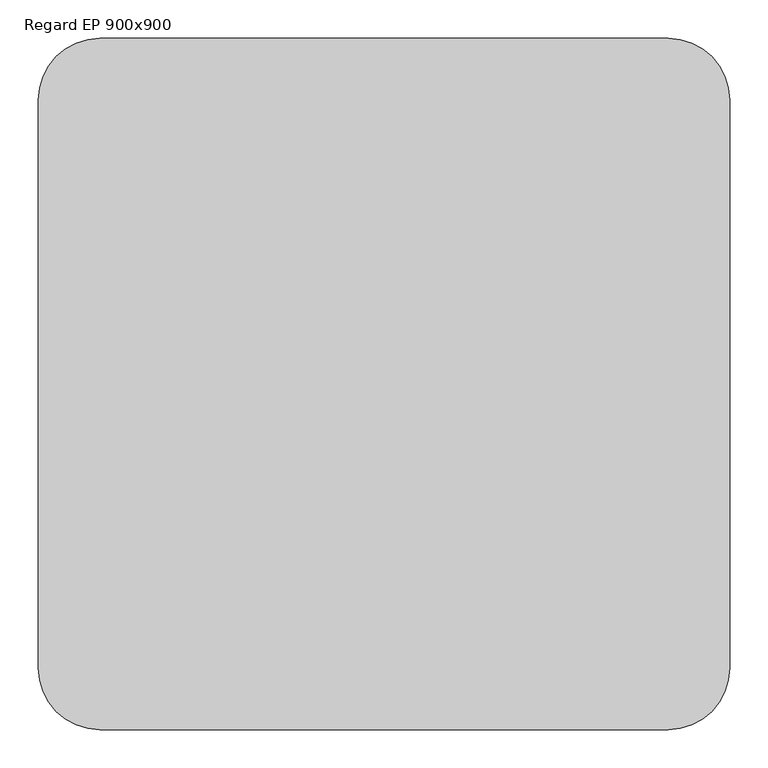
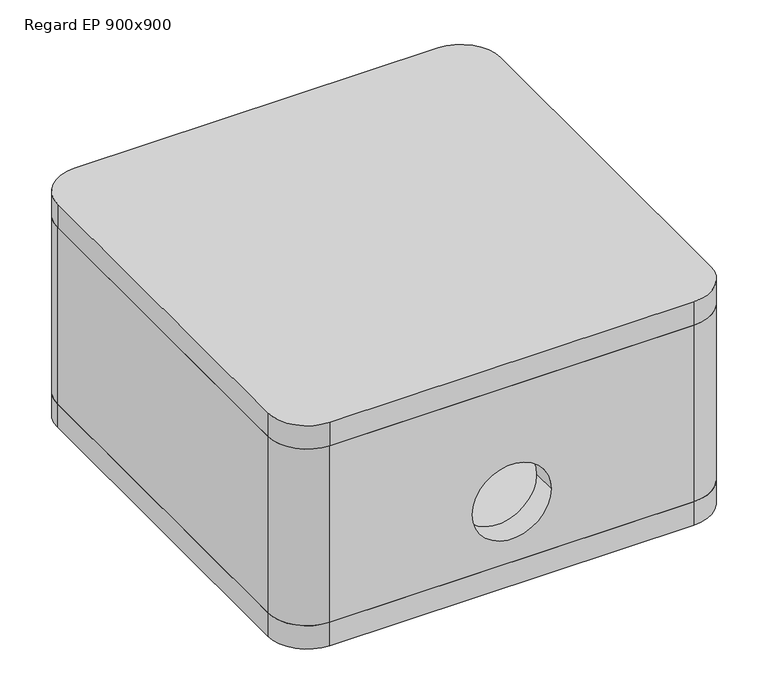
"""IFC4 building model written with IfcOpenShell, lengths in millimetres: valve geometry, Regard Eau pluviale 2 : Regard EP 900x900."""

from ifc_helpers import new_model, si_unit, point, frame, frame_2d, origin, place, context, project, spatial, polyline, circle_curve, trimmed, segment, composite_curve, outline, extrude, source, transform, mapped, element, save
from ifc_brep_helpers import plane_surface, cylinder_surface, revolved_surface, advanced_brep


def regard_ep_900x900_4cb097e6(model_context):
    return source(origin(), model_context, "Body", "SolidModel", [
        extrude(outline(composite_curve([segment(trimmed(circle_curve(frame_2d((370.0, 370.0)), 80.0), [point((370.0, 450.0))], [point((450.0, 370.0))], False, "CARTESIAN"), True, "CONTINUOUS"), segment(polyline([(450.0, 370.0), (450.0, -370.0)]), True, "CONTINUOUS"), segment(trimmed(circle_curve(frame_2d((370.0, -370.0)), 80.0), [point((450.0, -370.0))], [point((370.0, -450.0))], False, "CARTESIAN"), True, "CONTINUOUS"), segment(polyline([(370.0, -450.0), (-370.0, -450.0)]), True, "CONTINUOUS"), segment(trimmed(circle_curve(frame_2d((-370.0, -370.0)), 80.0), [point((-370.0, -450.0))], [point((-450.0, -370.0))], False, "CARTESIAN"), True, "CONTINUOUS"), segment(polyline([(-450.0, -370.0), (-450.0, 370.0)]), True, "CONTINUOUS"), segment(trimmed(circle_curve(frame_2d((-370.0, 370.0)), 80.0), [point((-450.0, 370.0))], [point((-370.0, 450.0))], False, "CARTESIAN"), True, "CONTINUOUS"), segment(polyline([(-370.0, 450.0), (370.0, 450.0)]), True, "CONTINUOUS")], self_intersect=False)), frame((0.0, 0.0, 869930.0), z_axis=(0.0, 0.0, 1.0), x_axis=(1.0, 0.0, 0.0)), (0.0, 0.0, 1.0), 50.0),
        extrude(outline(composite_curve([segment(trimmed(circle_curve(frame_2d((370.0, 370.0)), 80.0), [point((370.0, 450.0))], [point((450.0, 370.0))], False, "CARTESIAN"), True, "CONTINUOUS"), segment(polyline([(450.0, 370.0), (450.0, -370.0)]), True, "CONTINUOUS"), segment(trimmed(circle_curve(frame_2d((370.0, -370.0)), 80.0), [point((450.0, -370.0))], [point((370.0, -450.0))], False, "CARTESIAN"), True, "CONTINUOUS"), segment(polyline([(370.0, -450.0), (-370.0, -450.0)]), True, "CONTINUOUS"), segment(trimmed(circle_curve(frame_2d((-370.0, -370.0)), 80.0), [point((-370.0, -450.0))], [point((-450.0, -370.0))], False, "CARTESIAN"), True, "CONTINUOUS"), segment(polyline([(-450.0, -370.0), (-450.0, 370.0)]), True, "CONTINUOUS"), segment(trimmed(circle_curve(frame_2d((-370.0, 370.0)), 80.0), [point((-450.0, 370.0))], [point((-370.0, 450.0))], False, "CARTESIAN"), True, "CONTINUOUS"), segment(polyline([(-370.0, 450.0), (370.0, 450.0)]), True, "CONTINUOUS")], self_intersect=False)), frame((0.0, 0.0, 869500.0), z_axis=(0.0, 0.0, 1.0), x_axis=(1.0, 0.0, 0.0)), (0.0, 0.0, 1.0), 50.0),
        advanced_brep(
        [(450.0, -370.0, 869930.0), (450.0, 370.0, 869930.0), (370.0, 450.0, 869930.0), (-370.0, 450.0, 869930.0), (-450.0, 370.0, 869930.0), (-450.0, -370.0, 869930.0), (-370.0, -450.0, 869930.0), (370.0, -450.0, 869930.0), (-370.0, 400.0, 869930.0), (370.0, 400.0, 869930.0), (400.0, 370.0, 869930.0), (400.0, -370.0, 869930.0), (370.0, -400.0, 869930.0), (-370.0, -400.0, 869930.0), (-400.0, -370.0, 869930.0), (-400.0, 370.0, 869930.0), (450.0, -370.0, 869550.0), (370.0, -450.0, 869550.0), (-370.0, -450.0, 869550.0), (-450.0, -370.0, 869550.0), (-450.0, 370.0, 869550.0), (-370.0, 450.0, 869550.0), (370.0, 450.0, 869550.0), (450.0, 370.0, 869550.0), (-370.0, 400.0, 869550.0), (-400.0, 370.0, 869550.0), (-400.0, -370.0, 869550.0), (-370.0, -400.0, 869550.0), (370.0, -400.0, 869550.0), (400.0, -370.0, 869550.0), (400.0, 370.0, 869550.0), (370.0, 400.0, 869550.0), (-80.0, 450.0, 869680.0), (80.0, 450.0, 869680.0), (80.0, -450.0, 869680.0), (-80.0, -450.0, 869680.0), (-80.0, -400.0, 869680.0), (80.0, -400.0, 869680.0), (-80.0, 400.0, 869680.0), (80.0, 400.0, 869680.0)],
        [
            (0, 1),
            (1, 2, circle_curve(frame((370.0, 370.0, 869930.0), z_axis=(0.0, 0.0, 1.0), x_axis=(1.0, 0.0, 0.0)), 80.0)),
            (2, 3),
            (3, 4, circle_curve(frame((-370.0, 370.0, 869930.0), z_axis=(0.0, 0.0, 1.0), x_axis=(1.0, 0.0, 0.0)), 80.0)),
            (4, 5),
            (5, 6, circle_curve(frame((-370.0, -370.0, 869930.0), z_axis=(0.0, 0.0, 1.0), x_axis=(1.0, 0.0, 0.0)), 80.0)),
            (6, 7),
            (7, 0, circle_curve(frame((370.0, -370.0, 869930.0), z_axis=(0.0, 0.0, 1.0), x_axis=(1.0, 0.0, 0.0)), 80.0)),
            (8, 9),
            (9, 10, circle_curve(frame((370.0, 370.0, 869930.0), z_axis=(0.0, 0.0, -1.0), x_axis=(1.0, 0.0, 0.0)), 30.0)),
            (10, 11),
            (11, 12, circle_curve(frame((370.0, -370.0, 869930.0), z_axis=(0.0, 0.0, -1.0), x_axis=(1.0, 0.0, 0.0)), 30.0)),
            (12, 13),
            (13, 14, circle_curve(frame((-370.0, -370.0, 869930.0), z_axis=(0.0, 0.0, -1.0), x_axis=(1.0, 0.0, 0.0)), 30.0)),
            (14, 15),
            (15, 8, circle_curve(frame((-370.0, 370.0, 869930.0), z_axis=(0.0, 0.0, -1.0), x_axis=(1.0, 0.0, 0.0)), 30.0)),
            (16, 17, circle_curve(frame((370.0, -370.0, 869550.0), z_axis=(0.0, 0.0, -1.0), x_axis=(1.0, 0.0, 0.0)), 80.0)),
            (17, 18),
            (18, 19, circle_curve(frame((-370.0, -370.0, 869550.0), z_axis=(0.0, 0.0, -1.0), x_axis=(1.0, 0.0, 0.0)), 80.0)),
            (19, 20),
            (20, 21, circle_curve(frame((-370.0, 370.0, 869550.0), z_axis=(0.0, 0.0, -1.0), x_axis=(1.0, 0.0, 0.0)), 80.0)),
            (21, 22),
            (22, 23, circle_curve(frame((370.0, 370.0, 869550.0), z_axis=(0.0, 0.0, -1.0), x_axis=(1.0, 0.0, 0.0)), 80.0)),
            (23, 16),
            (24, 25, circle_curve(frame((-370.0, 370.0, 869550.0), z_axis=(0.0, 0.0, 1.0), x_axis=(1.0, 0.0, 0.0)), 30.0)),
            (25, 26),
            (26, 27, circle_curve(frame((-370.0, -370.0, 869550.0), z_axis=(0.0, 0.0, 1.0), x_axis=(1.0, 0.0, 0.0)), 30.0)),
            (27, 28),
            (28, 29, circle_curve(frame((370.0, -370.0, 869550.0), z_axis=(0.0, 0.0, 1.0), x_axis=(1.0, 0.0, 0.0)), 30.0)),
            (29, 30),
            (30, 31, circle_curve(frame((370.0, 370.0, 869550.0), z_axis=(0.0, 0.0, 1.0), x_axis=(1.0, 0.0, 0.0)), 30.0)),
            (31, 24),
            (0, 16),
            (23, 1),
            (2, 22),
            (21, 3),
            (32, 33, circle_curve(frame((0.0, 450.0, 869680.0), z_axis=(0.0, -1.0, 0.0), x_axis=(1.0, 0.0, 0.0)), 80.0)),
            (33, 32, circle_curve(frame((0.0, 450.0, 869680.0), z_axis=(0.0, -1.0, 0.0), x_axis=(1.0, 0.0, 0.0)), 80.0)),
            (4, 20),
            (19, 5),
            (6, 18),
            (17, 7),
            (34, 35, circle_curve(frame((0.0, -450.0, 869680.0), z_axis=(0.0, 1.0, 0.0), x_axis=(1.0, 0.0, 0.0)), 80.0)),
            (35, 34, circle_curve(frame((0.0, -450.0, 869680.0), z_axis=(0.0, 1.0, 0.0), x_axis=(1.0, 0.0, 0.0)), 80.0)),
            (36, 35),
            (34, 37),
            (37, 36, circle_curve(frame((0.0, -400.0, 869680.0), z_axis=(0.0, 1.0, 0.0), x_axis=(1.0, 0.0, 0.0)), 80.0)),
            (36, 37, circle_curve(frame((0.0, -400.0, 869680.0), z_axis=(0.0, 1.0, 0.0), x_axis=(1.0, 0.0, 0.0)), 80.0)),
            (32, 38),
            (38, 39, circle_curve(frame((0.0, 400.0, 869680.0), z_axis=(0.0, -1.0, 0.0), x_axis=(1.0, 0.0, 0.0)), 80.0)),
            (39, 33),
            (39, 38, circle_curve(frame((0.0, 400.0, 869680.0), z_axis=(0.0, -1.0, 0.0), x_axis=(1.0, 0.0, 0.0)), 80.0)),
            (8, 24),
            (31, 9),
            (30, 10),
            (29, 11),
            (28, 12),
            (27, 13),
            (26, 14),
            (25, 15),
        ],
        [
            plane_surface(frame((450.0, 370.0, 869930.0), z_axis=(0.0, 0.0, 1.0), x_axis=(0.0, 1.0, 0.0))),
            plane_surface(frame((450.0, 370.0, 869550.0), z_axis=(0.0, 0.0, -1.0), x_axis=(0.0, -1.0, 0.0))),
            plane_surface(frame((450.0, -370.0, 869930.0), z_axis=(1.0, 0.0, 0.0), x_axis=(0.0, 0.0, -1.0))),
            plane_surface(frame((370.0, 450.0, 869930.0), z_axis=(0.0, 1.0, 0.0), x_axis=(0.0, 0.0, -1.0))),
            plane_surface(frame((-450.0, 370.0, 869930.0), z_axis=(-1.0, 0.0, 0.0), x_axis=(0.0, 0.0, -1.0))),
            plane_surface(frame((-370.0, -450.0, 869930.0), z_axis=(0.0, -1.0, 0.0), x_axis=(0.0, 0.0, -1.0))),
            revolved_surface(polyline([(80.0, -450.0, 869680.0), (80.0, -400.0, 869680.0)]), (0.0, -250.0, 869680.0), (0.0, -1.0, 0.0)),
            revolved_surface(polyline([(80.0, 400.0, 869680.0), (80.0, 450.0, 869680.0)]), (0.0, 450.0, 869680.0), (0.0, -1.0, 0.0)),
            cylinder_surface(frame((370.0, 370.0, 869550.0), z_axis=(0.0, 0.0, 1.0), x_axis=(1.0, 0.0, 0.0)), 80.0),
            cylinder_surface(frame((-370.0, 370.0, 869550.0), z_axis=(0.0, 0.0, 1.0), x_axis=(1.0, 0.0, 0.0)), 80.0),
            cylinder_surface(frame((-370.0, -370.0, 869550.0), z_axis=(0.0, 0.0, 1.0), x_axis=(1.0, 0.0, 0.0)), 80.0),
            cylinder_surface(frame((370.0, -370.0, 869550.0), z_axis=(0.0, 0.0, 1.0), x_axis=(1.0, 0.0, 0.0)), 80.0),
            plane_surface(frame((-370.0, 400.0, 869930.0), z_axis=(0.0, -1.0, 0.0), x_axis=(0.0, 0.0, -1.0))),
            revolved_surface(polyline([(400.0, 370.0, 869550.0), (400.0, 370.0, 869930.0)]), (370.0, 370.0, 0.0), (0.0, 0.0, -1.0)),
            plane_surface(frame((400.0, 370.0, 869930.0), z_axis=(-1.0, 0.0, 0.0), x_axis=(0.0, 0.0, -1.0))),
            revolved_surface(polyline([(400.0, -370.0, 869550.0), (400.0, -370.0, 869930.0)]), (370.0, -370.0, 0.0), (0.0, 0.0, -1.0)),
            plane_surface(frame((370.0, -400.0, 869930.0), z_axis=(0.0, 1.0, 0.0), x_axis=(0.0, 0.0, -1.0))),
            revolved_surface(polyline([(-340.0, -370.0, 869550.0), (-340.0, -370.0, 869930.0)]), (-370.0, -370.0, 0.0), (0.0, 0.0, -1.0)),
            plane_surface(frame((-400.0, -370.0, 869930.0), z_axis=(1.0, 0.0, 0.0), x_axis=(0.0, 0.0, -1.0))),
            revolved_surface(polyline([(-340.0, 370.0, 869550.0), (-340.0, 370.0, 869930.0)]), (-370.0, 370.0, 0.0), (0.0, 0.0, -1.0)),
        ],
        [
            (0, [[1, 2, 3, 4, 5, 6, 7, 8], [9, 10, 11, 12, 13, 14, 15, 16]]),
            (1, [[17, 18, 19, 20, 21, 22, 23, 24], [25, 26, 27, 28, 29, 30, 31, 32]]),
            (2, [[-1, 33, -24, 34]]),
            (3, [[-3, 35, -22, 36], [37, 38]]),
            (4, [[-5, 39, -20, 40]]),
            (5, [[-7, 41, -18, 42], [43, 44]]),
            (6, [[45, -43, 46, 47]]),
            (6, [[-45, 48, -46, -44]]),
            (7, [[49, 50, 51, -37]]),
            (7, [[-49, -38, -51, 52]]),
            (8, [[-2, -34, -23, -35]]),
            (9, [[-4, -36, -21, -39]]),
            (10, [[-6, -40, -19, -41]]),
            (11, [[-8, -42, -17, -33]]),
            (12, [[-9, 53, -32, 54], [-50, -52]]),
            (13, [[-10, -54, -31, 55]]),
            (14, [[-11, -55, -30, 56]]),
            (15, [[-12, -56, -29, 57]]),
            (16, [[-13, -57, -28, 58], [-47, -48]]),
            (17, [[-14, -58, -27, 59]]),
            (18, [[-15, -59, -26, 60]]),
            (19, [[-16, -60, -25, -53]]),
        ],
    ),
    ])


if __name__ == "__main__":
    model = new_model("IFC4")
    model_context = context("Model", 3, world=origin())
    ifc_project = project(units=[si_unit("LENGTHUNIT", "METRE", prefix="MILLI")], contexts=[model_context])
    site = spatial("IfcSite", under=ifc_project)
    building = spatial("IfcBuilding", under=site)
    placement = place(None, origin())
    regard_ep_900x900_shape = regard_ep_900x900_4cb097e6(model_context)
    element("IfcValve", 1, ObjectType="Regard Eau pluviale 2 : Regard EP 900x900", at=placement, inside=building, context=model_context, shape_type="MappedRepresentation", body=[
        mapped(regard_ep_900x900_shape, transform((0.0, 0.0, 0.0), x_axis=(1.0, 0.0, 0.0), y_axis=(0.0, 1.0, 0.0), z_axis=(0.0, 0.0, 1.0))),
    ])
    save(model, "model.ifc")
